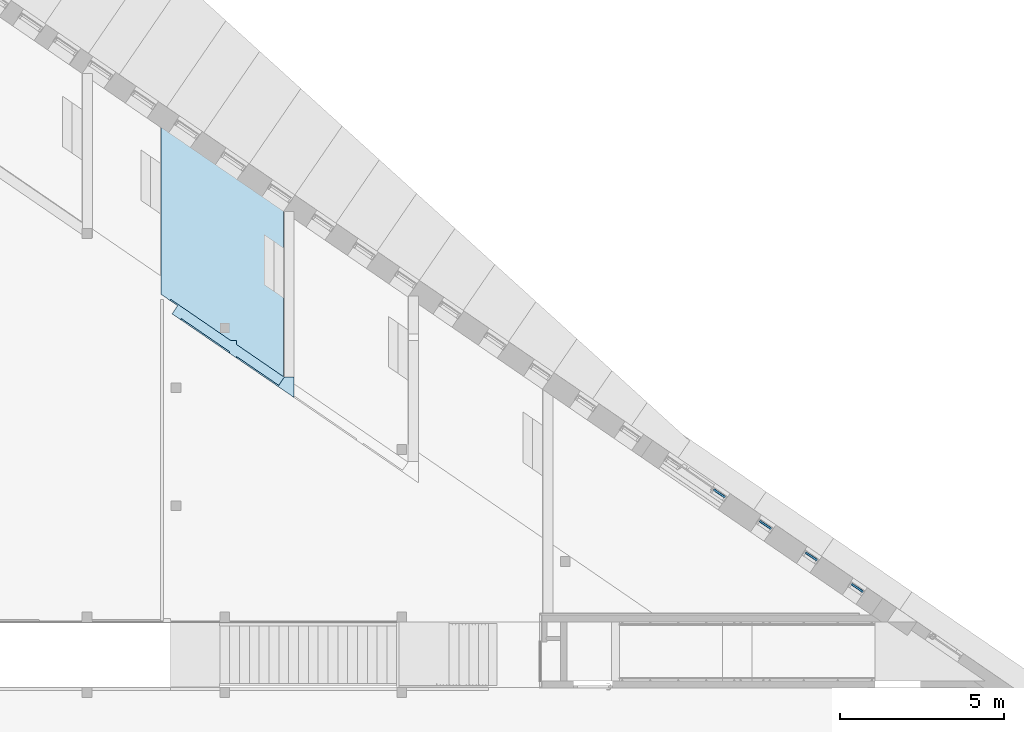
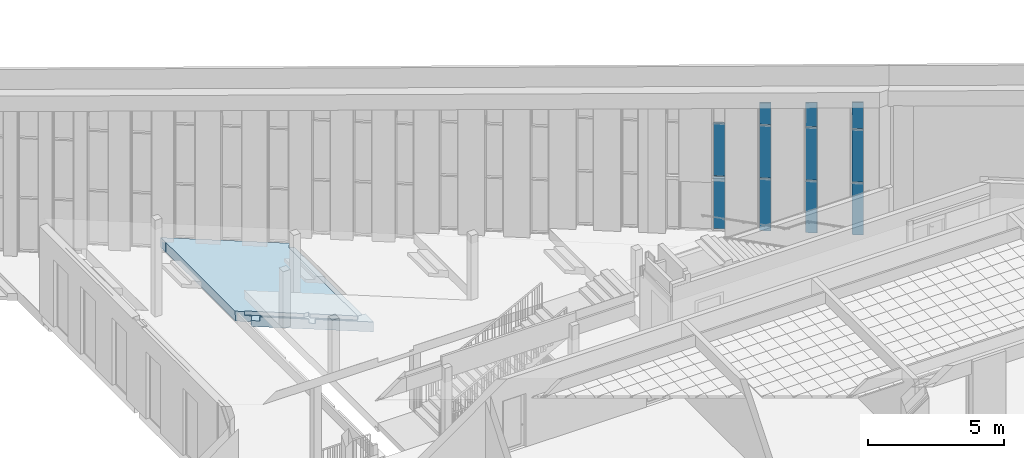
# One storey, part 34 of 79: 11 plates, 1 slab, 4 elements without a shape of their own.
"""IFC2X3 building model written with IfcOpenShell, lengths in millimetres."""

from ifc_helpers import new_model, entity, si_unit, converted_unit, derived_unit, money_unit, direction, frame, origin_with_axes, place, context, subcontext, project, spatial, faceted_brep, material, material_list, type_object, element, aggregate, save


model = new_model("IFC2X3")

# Units and contexts
model_context = context("Model", 3, precision=0.01, world=origin_with_axes(), true_north=direction((0.0, 1.0)))
body_context = subcontext(model_context, "Body", "Model", "MODEL_VIEW")
ifc_project = project(units=[si_unit("LENGTHUNIT", "METRE", prefix="MILLI"), si_unit("AREAUNIT", "SQUARE_METRE"), si_unit("VOLUMEUNIT", "CUBIC_METRE"), converted_unit("PLANEANGLEUNIT", "DEGREE", entity("IfcPlaneAngleMeasure", 0.0174532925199), si_unit("PLANEANGLEUNIT", "RADIAN"), dimensions=[0, 0, 0, 0, 0, 0, 0]), si_unit("SOLIDANGLEUNIT", "STERADIAN"), money_unit("EUR"), converted_unit("TIMEUNIT", "Year", entity("IfcTimeMeasure", 31556926.0), si_unit("TIMEUNIT", "SECOND"), dimensions=[0, 0, 1, 0, 0, 0, 0]), si_unit("MASSUNIT", "GRAM", prefix="KILO"), si_unit("THERMODYNAMICTEMPERATUREUNIT", "DEGREE_CELSIUS"), si_unit("LUMINOUSINTENSITYUNIT", "LUMEN"), si_unit("ENERGYUNIT", "JOULE", prefix="MEGA"), derived_unit("THERMALCONDUCTANCEUNIT", [(si_unit("POWERUNIT", "WATT"), 1), (si_unit("LENGTHUNIT", "METRE"), -1), (si_unit("THERMODYNAMICTEMPERATUREUNIT", "KELVIN"), -1)]), derived_unit("SPECIFICHEATCAPACITYUNIT", [(si_unit("ENERGYUNIT", "JOULE"), 1), (si_unit("MASSUNIT", "GRAM", prefix="KILO"), -1), (si_unit("THERMODYNAMICTEMPERATUREUNIT", "KELVIN"), -1)]), derived_unit("MASSDENSITYUNIT", [(si_unit("MASSUNIT", "GRAM", prefix="KILO"), 1), (si_unit("VOLUMEUNIT", "CUBIC_METRE"), -1)])], contexts=[model_context])

# Site, building, storey
site_placement = place(None, origin_with_axes())
site = spatial("IfcSite", under=ifc_project, at=site_placement, Name="L.Koidula tn 11b", CompositionType="ELEMENT")
building_placement = place(site_placement, origin_with_axes())
building = spatial("IfcBuilding", under=site, at=building_placement, Name="Rakvere Riigigümnaasium", CompositionType="ELEMENT")
storey_placement = place(building_placement, frame((0.0, 0.0, 3720.0), z_axis=(0.0, 0.0, 1.0), x_axis=(1.0, 0.0, 0.0)))
storey = spatial("IfcBuildingStorey", under=building, at=storey_placement, Name="2.korrus +3,72", CompositionType="ELEMENT", Elevation=3720.0)

# Curtain wall, plate
curtain_wall_type = type_object("IfcCurtainWallType", Name="Curtain Wall Type", PredefinedType="NOTDEFINED")
curtain_wall_1_placement = place(storey_placement, frame((80844.1957644, 21028.8193943, 465.0), z_axis=(0.0, 0.0, 1.0), x_axis=(1.0, 0.0, 0.0)))
curtain_wall_1 = element("IfcCurtainWall", 1, at=curtain_wall_1_placement, inside=storey, type_object=curtain_wall_type, Name="KLF-06-04")
ifc_material_1 = material(Name="Klaaspakett 3x")
plate_type_1 = type_object("IfcPlateType", Name="Distinct Panel 426 x 2376 x 54", PredefinedType="CURTAIN_PANEL")
plate_1_placement = place(curtain_wall_1_placement, frame((6.35599519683e-05, -4.35943050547e-05, 3600.00006484), z_axis=(0.0, 0.0, 1.0), x_axis=(-0.824666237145, 0.565619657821, 0.0)))
plate_1 = element("IfcPlate", 2, at=plate_1_placement, type_object=plate_type_1, material=ifc_material_1, Name="KLF-06-04-Klaasid", ObjectType="CURTAIN_PANEL", context=body_context, shape_type="Brep", body=[
    faceted_brep([(-212.999800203, 27.0, 1188.0), (-212.999800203, -27.0, 1188.0), (212.999806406, -27.0, 1188.0), (212.999806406, 27.0, 1188.0), (-212.999800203, 27.0, -1188.0), (-212.999800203, -27.0, -1188.0), (212.999806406, -27.0, -1188.0), (212.999806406, 27.0, -1188.0)], [[[0, 1, 2, 3]], [[4, 5, 1, 0]], [[1, 5, 6, 2]], [[3, 2, 6, 7]], [[0, 3, 7, 4]], [[7, 6, 5, 4]]]),
])

curtain_wall_2_placement = place(storey_placement, frame((82246.2623366, 20067.4976964, 464.999982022), z_axis=(0.0, 0.0, 1.0), x_axis=(1.0, 0.0, 0.0)))
curtain_wall_2 = element("IfcCurtainWall", 3, at=curtain_wall_2_placement, inside=storey, type_object=curtain_wall_type, Name="KLF-06-03")
plate_2_placement = place(curtain_wall_2_placement, frame((0.0, 0.0, 3600.00008282), z_axis=(0.0, 0.0, 1.0), x_axis=(-0.824666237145, 0.565619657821, 0.0)))
plate_2 = element("IfcPlate", 4, at=plate_2_placement, type_object=plate_type_1, material=ifc_material_1, Name="KLF-06-03-Klaasid", ObjectType="CURTAIN_PANEL", context=body_context, shape_type="Brep", body=[
    faceted_brep([(-213.004737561, 27.0, 1188.0), (-213.004737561, -27.0, 1188.0), (212.982495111, -27.0, 1188.0), (212.982495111, 27.0, 1188.0), (-212.96808067, 27.0, -1188.0), (-212.96808067, -27.0, -1188.0), (212.990327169, -27.0, -1188.0), (212.990327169, 27.0, -1188.0)], [[[0, 1, 2, 3]], [[4, 5, 1, 0]], [[1, 5, 6, 2]], [[3, 2, 6, 7]], [[0, 3, 7, 4]], [[7, 6, 5, 4]]]),
])

curtain_wall_3_placement = place(storey_placement, frame((83648.21223, 19105.9329046, 464.999957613), z_axis=(0.0, 0.0, 1.0), x_axis=(1.0, 0.0, 0.0)))
curtain_wall_3 = element("IfcCurtainWall", 5, at=curtain_wall_3_placement, inside=storey, type_object=curtain_wall_type, Name="KLF-06-02")
plate_3_placement = place(curtain_wall_3_placement, frame((0.0, 0.0, 3600.00010722), z_axis=(0.0, 0.0, 1.0), x_axis=(-0.824666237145, 0.565619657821, 0.0)))
plate_3 = element("IfcPlate", 6, at=plate_3_placement, type_object=plate_type_1, material=ifc_material_1, Name="KLF-06-02-Klaasid", ObjectType="CURTAIN_PANEL", context=body_context, shape_type="Brep", body=[
    faceted_brep([(-213.000010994, 27.0, 1188.0), (-213.000010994, -27.0, 1188.0), (212.99991748, -27.0, 1188.0), (212.99991748, 27.0, 1188.0), (-212.99983218, 27.0, -1188.0), (-212.99983218, -27.0, -1188.0), (212.99991748, -27.0, -1188.0), (212.99991748, 27.0, -1188.0)], [[[0, 1, 2, 3]], [[4, 5, 1, 0]], [[1, 5, 6, 2]], [[3, 2, 6, 7]], [[0, 3, 7, 4]], [[7, 6, 5, 4]]]),
])

curtain_wall_4_placement = place(storey_placement, frame((85050.1449307, 18144.3794194, 464.999921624), z_axis=(0.0, 0.0, 1.0), x_axis=(1.0, 0.0, 0.0)))
curtain_wall_4 = element("IfcCurtainWall", 7, at=curtain_wall_4_placement, inside=storey, type_object=curtain_wall_type, Name="KLF-06-01")
plate_4_placement = place(curtain_wall_4_placement, frame((-1.95077660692e-05, 1.33799318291e-05, 3600.00014321), z_axis=(0.0, 0.0, 1.0), x_axis=(-0.824666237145, 0.565619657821, 0.0)))
plate_4 = element("IfcPlate", 8, at=plate_4_placement, type_object=plate_type_1, material=ifc_material_1, Name="KLF-06-01-Klaasid", ObjectType="CURTAIN_PANEL", context=body_context, shape_type="Brep", body=[
    faceted_brep([(-212.999995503, 27.0, 1188.0), (-212.999995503, -27.0, 1188.0), (212.999897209, -27.0, 1188.0), (212.999897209, 27.0, 1188.0), (-212.999816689, 27.0, -1188.0), (-212.999816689, -27.0, -1188.0), (212.999897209, -27.0, -1188.0), (212.999897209, 27.0, -1188.0)], [[[0, 1, 2, 3]], [[4, 5, 1, 0]], [[1, 5, 6, 2]], [[3, 2, 6, 7]], [[0, 3, 7, 4]], [[7, 6, 5, 4]]]),
])

# Plate
plate_type_2 = type_object("IfcPlateType", Name="Distinct Panel 426 x 2351 x 54", PredefinedType="CURTAIN_PANEL")
plate_5_placement = place(curtain_wall_1_placement, frame((6.47108322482e-05, -4.43836718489e-05, 1200.00003242), z_axis=(0.0, 0.0, 1.0), x_axis=(-0.824666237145, 0.565619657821, 0.0)))
plate_5 = element("IfcPlate", 9, at=plate_5_placement, type_object=plate_type_2, material=ifc_material_1, Name="KLF-06-04-Klaasid", ObjectType="CURTAIN_PANEL", context=body_context, shape_type="Brep", body=[
    faceted_brep([(-212.999811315, 27.0, 1188.00003209), (-212.999811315, -27.0, 1188.00003209), (212.999806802, -27.0, 1188.00003209), (212.999806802, 27.0, 1188.00003209), (-212.999811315, 27.0, -1163.00003142), (-212.999811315, -27.0, -1163.00003142), (212.999806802, -27.0, -1163.00003142), (212.999806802, 27.0, -1163.00003142)], [[[0, 1, 2, 3]], [[4, 5, 1, 0]], [[1, 5, 6, 2]], [[3, 2, 6, 7]], [[0, 3, 7, 4]], [[7, 6, 5, 4]]]),
])

aggregate(curtain_wall_1, [plate_5, plate_1])

plate_6_placement = place(curtain_wall_2_placement, frame((-0.0184879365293, 0.0126804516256, 1200.00004141), z_axis=(0.0, 0.0, 1.0), x_axis=(-0.824666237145, 0.565619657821, 0.0)))
plate_6 = element("IfcPlate", 10, at=plate_6_placement, type_object=plate_type_2, material=ifc_material_1, Name="KLF-06-03-Klaasid", ObjectType="CURTAIN_PANEL", context=body_context, shape_type="Brep", body=[
    faceted_brep([(-212.990137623, 27.0, 1188.00004099), (-212.990137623, -27.0, 1188.00004099), (212.96796305, -27.0, 1188.00004099), (212.96796305, 27.0, 1188.00004099), (-212.953945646, 27.0, -1163.00004013), (-212.953945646, -27.0, -1163.00004013), (212.975616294, -27.0, -1163.00004013), (212.975616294, 27.0, -1163.00004013)], [[[0, 1, 2, 3]], [[4, 5, 1, 0]], [[1, 5, 6, 2]], [[3, 2, 6, 7]], [[0, 3, 7, 4]], [[7, 6, 5, 4]]]),
])

plate_7_placement = place(curtain_wall_3_placement, frame((-5.13583415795e-05, 3.52255185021e-05, 1200.00005361), z_axis=(0.0, 0.0, 1.0), x_axis=(-0.824666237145, 0.565619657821, 0.0)))
plate_7 = element("IfcPlate", 11, at=plate_7_placement, type_object=plate_type_2, material=ifc_material_1, Name="KLF-06-02-Klaasid", ObjectType="CURTAIN_PANEL", context=body_context, shape_type="Brep", body=[
    faceted_brep([(-212.999915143, 27.0, 1188.00005308), (-212.999915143, -27.0, 1188.00005308), (212.999853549, -27.0, 1188.00005308), (212.999853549, 27.0, 1188.00005308), (-212.999807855, 27.0, -1163.00005196), (-212.999807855, -27.0, -1163.00005196), (212.999853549, -27.0, -1163.00005196), (212.999853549, 27.0, -1163.00005196)], [[[0, 1, 2, 3]], [[4, 5, 1, 0]], [[1, 5, 6, 2]], [[3, 2, 6, 7]], [[0, 3, 7, 4]], [[7, 6, 5, 4]]]),
])

plate_8_placement = place(curtain_wall_4_placement, frame((-7.24254647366e-05, 4.96749663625e-05, 1200.00007161), z_axis=(0.0, 0.0, 1.0), x_axis=(-0.824666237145, 0.565619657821, 0.0)))
plate_8 = element("IfcPlate", 12, at=plate_8_placement, type_object=plate_type_2, material=ifc_material_1, Name="KLF-06-01-Klaasid", ObjectType="CURTAIN_PANEL", context=body_context, shape_type="Brep", body=[
    faceted_brep([(-212.999872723, 27.0, 1188.00007089), (-212.999872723, -27.0, 1188.00007089), (212.999830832, -27.0, 1188.00007089), (212.999830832, 27.0, 1188.00007089), (-212.999801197, 27.0, -1163.0000694), (-212.999801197, -27.0, -1163.0000694), (212.999830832, -27.0, -1163.0000694), (212.999830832, 27.0, -1163.0000694)], [[[0, 1, 2, 3]], [[4, 5, 1, 0]], [[1, 5, 6, 2]], [[3, 2, 6, 7]], [[0, 3, 7, 4]], [[7, 6, 5, 4]]]),
])

plate_type_3 = type_object("IfcPlateType", Name="Distinct Panel 426 x 952 x 54", PredefinedType="CURTAIN_PANEL")
plate_9_placement = place(curtain_wall_2_placement, frame((0.0131810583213, -0.00904058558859, 5306.71689533), z_axis=(0.0, 0.0, 1.0), x_axis=(-0.824666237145, 0.565619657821, 0.0)))
plate_9 = element("IfcPlate", 13, at=plate_9_placement, type_object=plate_type_3, material=ifc_material_1, Name="KLF-06-03-Klaasid", ObjectType="CURTAIN_PANEL", context=body_context, shape_type="Brep", body=[
    faceted_brep([(-213.004115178, 27.0, 482.311425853), (-213.004115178, -27.0, 482.311425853), (212.99531669, -27.0, 456.991559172), (212.99531669, 27.0, 456.991559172), (-212.989114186, 27.0, -494.716815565), (-212.989114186, -27.0, -494.716815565), (212.998396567, -27.0, -494.716815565), (212.998396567, 27.0, -494.716815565)], [[[0, 1, 2, 3]], [[4, 5, 1, 0]], [[1, 5, 6, 2]], [[3, 2, 6, 7]], [[0, 3, 7, 4]], [[7, 6, 5, 4]]]),
])

aggregate(curtain_wall_2, [plate_2, plate_9, plate_6])

plate_type_4 = type_object("IfcPlateType", Name="Distinct Panel 426 x 1053 x 54", PredefinedType="CURTAIN_PANEL")
plate_10_placement = place(curtain_wall_3_placement, frame((3.32078968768e-05, -2.27765397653e-05, 5357.23793135), z_axis=(0.0, 0.0, 1.0), x_axis=(-0.824666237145, 0.565619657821, 0.0)))
plate_10 = element("IfcPlate", 14, at=plate_10_placement, type_object=plate_type_4, material=ifc_material_1, Name="KLF-06-02-Klaasid", ObjectType="CURTAIN_PANEL", context=body_context, shape_type="Brep", body=[
    faceted_brep([(-212.999961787, 27.0, 532.832483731), (-212.999961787, -27.0, 532.832483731), (212.999960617, -27.0, 507.512567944), (212.999960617, 27.0, 507.512567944), (-212.999961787, 27.0, -545.237817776), (-212.999961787, -27.0, -545.237817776), (212.999960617, -27.0, -545.237817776), (212.999960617, 27.0, -545.237817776)], [[[0, 1, 2, 3]], [[4, 5, 1, 0]], [[1, 5, 6, 2]], [[3, 2, 6, 7]], [[0, 3, 7, 4]], [[7, 6, 5, 4]]]),
])

aggregate(curtain_wall_3, [plate_3, plate_10, plate_7])

plate_type_5 = type_object("IfcPlateType", Name="Distinct Panel 426 x 1154 x 54", PredefinedType="CURTAIN_PANEL")
plate_11_placement = place(curtain_wall_4_placement, frame((0.0, 0.0, 5407.7590066), z_axis=(0.0, 0.0, 1.0), x_axis=(-0.824666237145, 0.565619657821, 0.0)))
plate_11 = element("IfcPlate", 15, at=plate_11_placement, type_object=plate_type_5, material=ifc_material_1, Name="KLF-06-01-Klaasid", ObjectType="CURTAIN_PANEL", context=body_context, shape_type="Brep", body=[
    faceted_brep([(-212.999878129, 27.0, 583.35357888), (-212.999878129, -27.0, 583.35357888), (212.999914, -27.0, 558.03356112), (212.999914, 27.0, 558.03356112), (-212.999951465, 27.0, -595.758871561), (-212.999951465, -27.0, -595.758871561), (212.999914, -27.0, -595.758871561), (212.999914, 27.0, -595.758871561)], [[[0, 1, 2, 3]], [[4, 5, 1, 0]], [[1, 5, 6, 2]], [[3, 2, 6, 7]], [[0, 3, 7, 4]], [[7, 6, 5, 4]]]),
])

aggregate(curtain_wall_4, [plate_11, plate_8, plate_4])

# Slab
ifc_material_2 = material(Name="Parkett")
ifc_material_3 = material(Name="Betoon")
ifc_material_4 = material(Name="Mürasummutus vill")
ifc_material_5 = material(Name="Betoon õõnespaneel")
ifc_material_list = material_list([ifc_material_2, ifc_material_3, ifc_material_4, ifc_material_5])
slab_type = type_object("IfcSlabType", Name="VL-03 445", PredefinedType="NOTDEFINED")
slab_placement = place(storey_placement, frame((67865.0095019, 29768.7868037, -930.0), z_axis=(0.0, 0.0, 1.0), x_axis=(1.0, 0.0, 0.0)))
element("IfcSlab", 16, at=slab_placement, inside=storey, type_object=slab_type, material=ifc_material_list, Name="Suured astmed", PredefinedType="NOTDEFINED", context=body_context, shape_type="Brep", body=[
    faceted_brep([(-1965.01142906, -4466.58649099, -10.0), (-1965.01142906, -4417.22399735, -10.0), (-1965.01142906, -4417.22399735, 0.0), (-1965.01142906, -4466.58649099, 0.0), (-3455.00950164, -3444.69621126, -10.0), (-3455.00950164, -3395.68555617, -10.0), (-3455.00950164, -3395.68555617, 0.0), (-3455.00950164, -3444.69621126, 0.0)], [[[0, 1, 2, 3]], [[4, 5, 1, 0]], [[5, 6, 2, 1]], [[3, 2, 6, 7]], [[3, 7, 4, 0]], [[7, 6, 5, 4]]]),
    faceted_brep([(-1765.01142906, -4067.84962695, 0.0), (-1765.01142906, -4190.60738218, 0.0), (-320.0, -5181.3031085, 0.0), (-320.0, -144.314360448, 0.0), (-324.349597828, -141.331076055, 0.0), (-154.663893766, 106.068927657, 0.0), (-4074.98857094, 2794.94888692, 0.0), (-4074.98857094, 2431.14763944, 0.0), (-4064.98857094, 2424.28886488, 0.0), (-4064.98857094, -2662.18235839, 0.0), (-3775.00950271, -2861.05965669, 0.0), (-3775.00950164, -2812.55841983, 0.0), (-1944.06374009, -4067.84962695, 0.0), (-1765.01142906, -4067.84962695, -10.0), (-1765.01142906, -4190.60738218, -10.0), (-320.0, -5181.3031085, -10.0), (-320.0, -144.314360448, -10.0), (-324.349597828, -141.331076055, -10.0), (-154.663893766, 106.068927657, -10.0), (-4074.98857094, 2794.94888692, -10.0), (-4074.98857094, 2431.14763944, -10.0), (-4064.98857094, 2424.28886488, -10.0), (-4064.98857094, -2662.18235839, -10.0), (-3775.00950271, -2861.05965669, -10.0), (-3775.00950164, -2812.55841983, -10.0), (-1944.06374009, -4067.84962695, -10.0)], [[[0, 1, 2, 3, 4, 5, 6, 7, 8, 9, 10, 11, 12]], [[13, 14, 1, 0]], [[14, 15, 2, 1]], [[3, 2, 15, 16]], [[17, 4, 3, 16]], [[5, 4, 17, 18]], [[18, 19, 6, 5]], [[6, 19, 20, 7]], [[20, 21, 8, 7]], [[21, 22, 9, 8]], [[23, 10, 9, 22]], [[23, 24, 11, 10]], [[24, 25, 12, 11]], [[0, 12, 25, 13]], [[16, 15, 14, 13, 25, 24, 23, 22, 21, 20, 19, 18, 17]]]),
    faceted_brep([(-299.69284423, -5195.22563675, -10.0), (-299.69284423, -5195.22563675, 0.0), (-299.03961011, -5195.6734922, 0.0), (-299.03961011, -5195.6734922, -10.0), (-469.331637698, -5442.65780877, 0.0), (-469.331637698, -5442.65780877, -10.0), (-1765.01142906, -4554.34342857, 0.0), (-1765.01142906, -4603.75314892, 0.0), (0.0, -5814.25674364, 0.0), (0.0, -5195.6734922, 0.0), (0.0, -5195.6734922, -10.0), (0.0, -5814.25674364, -10.0), (-1765.01142906, -4603.75314892, -10.0), (-1765.01142906, -4554.34342857, -10.0)], [[[0, 1, 2, 3]], [[4, 1, 0, 5]], [[4, 6, 7, 8, 9, 2, 1]], [[9, 10, 3, 2]], [[5, 0, 3, 10, 11, 12, 13]], [[6, 4, 5, 13]], [[6, 13, 12, 7]], [[11, 8, 7, 12]], [[9, 8, 11, 10]]]),
    faceted_brep([(-1965.01142906, -4466.58649099, -100.0), (-1965.01142906, -4417.22399735, -100.0), (-1965.01142906, -4417.22399735, -10.0), (-1965.01142906, -4466.58649099, -10.0), (-3455.00950164, -3444.69621126, -100.0), (-3455.00950164, -3395.68555617, -100.0), (-3455.00950164, -3395.68555617, -10.0), (-3455.00950164, -3444.69621126, -10.0)], [[[0, 1, 2, 3]], [[4, 5, 1, 0]], [[5, 6, 2, 1]], [[3, 2, 6, 7]], [[3, 7, 4, 0]], [[7, 6, 5, 4]]]),
    faceted_brep([(-1765.01142906, -4067.84962695, -10.0), (-1765.01142906, -4190.60738218, -10.0), (-320.0, -5181.3031085, -10.0), (-320.0, -144.314360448, -10.0), (-324.349597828, -141.331076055, -10.0), (-154.663893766, 106.068927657, -10.0), (-4074.98857094, 2794.94888692, -10.0), (-4074.98857094, 2431.14763944, -10.0), (-4064.98857094, 2424.28886488, -10.0), (-4064.98857094, -2662.18235839, -10.0), (-3775.00950271, -2861.05965669, -10.0), (-3775.00950164, -2812.55841983, -10.0), (-1944.06374009, -4067.84962695, -10.0), (-1765.01142906, -4067.84962695, -100.0), (-1765.01142906, -4190.60738218, -100.0), (-320.0, -5181.3031085, -100.0), (-320.0, -144.314360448, -100.0), (-324.349597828, -141.331076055, -100.0), (-154.663893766, 106.068927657, -100.0), (-4074.98857094, 2794.94888692, -100.0), (-4074.98857094, 2431.14763944, -100.0), (-4064.98857094, 2424.28886488, -100.0), (-4064.98857094, -2662.18235839, -100.0), (-3775.00950271, -2861.05965669, -100.0), (-3775.00950164, -2812.55841983, -100.0), (-1944.06374009, -4067.84962695, -100.0)], [[[0, 1, 2, 3, 4, 5, 6, 7, 8, 9, 10, 11, 12]], [[13, 14, 1, 0]], [[14, 15, 2, 1]], [[3, 2, 15, 16]], [[17, 4, 3, 16]], [[5, 4, 17, 18]], [[18, 19, 6, 5]], [[6, 19, 20, 7]], [[20, 21, 8, 7]], [[21, 22, 9, 8]], [[23, 10, 9, 22]], [[23, 24, 11, 10]], [[24, 25, 12, 11]], [[0, 12, 25, 13]], [[16, 15, 14, 13, 25, 24, 23, 22, 21, 20, 19, 18, 17]]]),
    faceted_brep([(-299.69284423, -5195.22563675, -100.0), (-299.69284423, -5195.22563675, -10.0), (-299.03961011, -5195.6734922, -10.0), (-299.03961011, -5195.6734922, -100.0), (-469.331637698, -5442.65780877, -10.0), (-469.331637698, -5442.65780877, -100.0), (-1765.01142906, -4554.34342857, -10.0), (-1765.01142906, -4603.75314892, -10.0), (0.0, -5814.25674364, -10.0), (0.0, -5195.6734922, -10.0), (0.0, -5195.6734922, -100.0), (0.0, -5814.25674364, -100.0), (-1765.01142906, -4603.75314892, -100.0), (-1765.01142906, -4554.34342857, -100.0)], [[[0, 1, 2, 3]], [[4, 1, 0, 5]], [[4, 6, 7, 8, 9, 2, 1]], [[9, 10, 3, 2]], [[5, 0, 3, 10, 11, 12, 13]], [[6, 4, 5, 13]], [[6, 13, 12, 7]], [[11, 8, 7, 12]], [[9, 8, 11, 10]]]),
    faceted_brep([(-1965.01142906, -4466.58649099, -180.0), (-1965.01142906, -4417.22399735, -180.0), (-1965.01142906, -4417.22399735, -100.0), (-1965.01142906, -4466.58649099, -100.0), (-3455.00950164, -3444.69621126, -180.0), (-3455.00950164, -3395.68555617, -180.0), (-3455.00950164, -3395.68555617, -100.0), (-3455.00950164, -3444.69621126, -100.0)], [[[0, 1, 2, 3]], [[4, 5, 1, 0]], [[5, 6, 2, 1]], [[3, 2, 6, 7]], [[3, 7, 4, 0]], [[7, 6, 5, 4]]]),
    faceted_brep([(-1765.01142906, -4067.84962695, -100.0), (-1765.01142906, -4190.60738218, -100.0), (-320.0, -5181.3031085, -100.0), (-320.0, -144.314360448, -100.0), (-324.349597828, -141.331076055, -100.0), (-154.663893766, 106.068927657, -100.0), (-4074.98857094, 2794.94888692, -100.0), (-4074.98857094, 2431.14763944, -100.0), (-4064.98857094, 2424.28886488, -100.0), (-4064.98857094, -2662.18235839, -100.0), (-3775.00950271, -2861.05965669, -100.0), (-3775.00950164, -2812.55841983, -100.0), (-1944.06374009, -4067.84962695, -100.0), (-1765.01142906, -4067.84962695, -180.0), (-1765.01142906, -4190.60738218, -180.0), (-320.0, -5181.3031085, -180.0), (-320.0, -144.314360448, -180.0), (-324.349597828, -141.331076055, -180.0), (-154.663893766, 106.068927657, -180.0), (-4074.98857094, 2794.94888692, -180.0), (-4074.98857094, 2431.14763944, -180.0), (-4064.98857094, 2424.28886488, -180.0), (-4064.98857094, -2662.18235839, -180.0), (-3775.00950271, -2861.05965669, -180.0), (-3775.00950164, -2826.27036295, -180.0), (-3775.00950164, -2812.55841983, -180.0), (-3755.00950164, -2826.27036295, -180.0), (-3455.00950164, -3031.94950979, -180.0), (-1944.06374009, -4067.84962695, -180.0)], [[[0, 1, 2, 3, 4, 5, 6, 7, 8, 9, 10, 11, 12]], [[13, 14, 1, 0]], [[14, 15, 2, 1]], [[3, 2, 15, 16]], [[17, 4, 3, 16]], [[5, 4, 17, 18]], [[18, 19, 6, 5]], [[6, 19, 20, 7]], [[20, 21, 8, 7]], [[21, 22, 9, 8]], [[23, 10, 9, 22]], [[11, 10, 23, 24, 25]], [[26, 27, 28, 12, 11, 25]], [[0, 12, 28, 13]], [[16, 15, 14, 13, 28, 27, 26, 25, 24, 23, 22, 21, 20, 19, 18, 17]]]),
    faceted_brep([(-299.69284423, -5195.22563675, -180.0), (-299.69284423, -5195.22563675, -100.0), (-299.03961011, -5195.6734922, -100.0), (-299.03961011, -5195.6734922, -180.0), (-469.331637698, -5442.65780877, -100.0), (-469.331637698, -5442.65780877, -180.0), (-1765.01142906, -4554.34342857, -100.0), (-1765.01142906, -4603.75314892, -100.0), (0.0, -5814.25674364, -100.0), (0.0, -5195.6734922, -100.0), (0.0, -5195.6734922, -180.0), (0.0, -5814.25674364, -180.0), (-1765.01142906, -4603.75314892, -180.0), (-1765.01142906, -4554.34342857, -180.0)], [[[0, 1, 2, 3]], [[4, 1, 0, 5]], [[4, 6, 7, 8, 9, 2, 1]], [[9, 10, 3, 2]], [[5, 0, 3, 10, 11, 12, 13]], [[6, 4, 5, 13]], [[6, 13, 12, 7]], [[11, 8, 7, 12]], [[9, 8, 11, 10]]]),
    faceted_brep([(-4074.98857094, 2431.14763944, -180.0), (-4054.98857094, 2417.43009033, -180.0), (-4054.98857094, -2669.04069129, -180.0), (-3554.89399427, -3012.02219995, -180.0), (-3724.75620563, -3259.69494188, -180.0), (0.0, -5814.25674364, -180.0), (0.0, 0.0, -180.0), (-4054.98857094, 2781.2313079, -180.0), (-4054.98857094, 2781.21369298, -180.0), (-4074.98857094, 2794.93124209, -180.0), (-4074.98857094, 2431.14763944, -445.0), (-4054.98857094, 2417.43009033, -445.0), (-4054.98857094, -2669.04069129, -445.0), (-3554.89399427, -3012.02219995, -445.0), (-3724.75620563, -3259.69494188, -445.0), (0.0, -5814.25674364, -445.0), (0.0, 0.0, -445.0), (-4054.98857094, 2781.2313079, -445.0), (-4054.98857094, 2781.21369298, -445.0), (-4074.98857094, 2794.93124209, -445.0)], [[[0, 1, 2, 3, 4, 5, 6, 7, 8, 9]], [[10, 11, 1, 0]], [[12, 2, 1, 11]], [[3, 2, 12, 13]], [[4, 3, 13, 14]], [[5, 4, 14, 15]], [[6, 5, 15, 16]], [[16, 17, 7, 6]], [[18, 8, 7, 17]], [[19, 9, 8, 18]], [[19, 10, 0, 9]], [[12, 11, 10, 19, 18, 17, 16, 15, 14, 13]]]),
])

save(model, "model.ifc")
